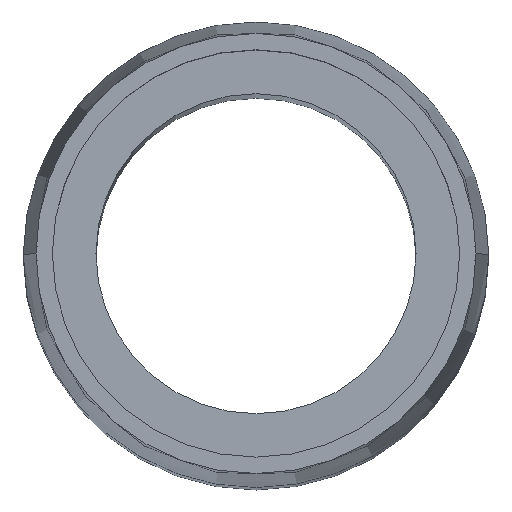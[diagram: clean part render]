
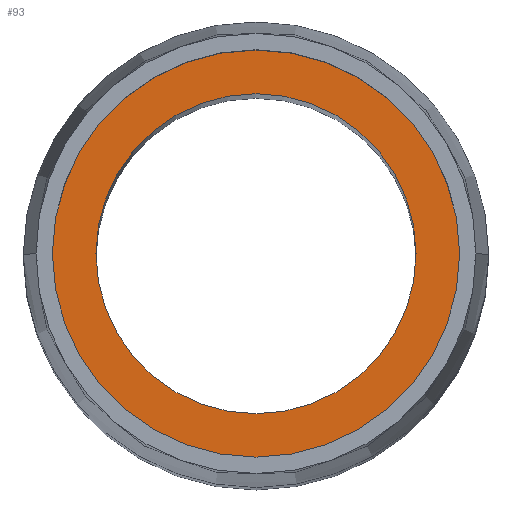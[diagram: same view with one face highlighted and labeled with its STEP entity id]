
A CAD part, top view. The second image highlights one B-rep face of the part: STEP entity #93.
In plain terms, the highlighted planar face has unit normal (0, 0, 1).
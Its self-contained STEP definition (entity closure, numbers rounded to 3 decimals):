
#67 = DIRECTION ( 'NONE',  ( 1., 0., 0. ) ) ;
#81 = ORIENTED_EDGE ( 'NONE', *, *, #465, .F. ) ;
#91 = ORIENTED_EDGE ( 'NONE', *, *, #505, .T. ) ;
#92 = EDGE_LOOP ( 'NONE', ( #81, #123 ) ) ;
#93 = ADVANCED_FACE ( 'NONE', ( #141, #190 ), #142, .T. ) ;
#117 = EDGE_CURVE ( 'NONE', #419, #469, #188, .T. ) ;
#123 = ORIENTED_EDGE ( 'NONE', *, *, #496, .F. ) ;
#124 = EDGE_LOOP ( 'NONE', ( #125, #91 ) ) ;
#125 = ORIENTED_EDGE ( 'NONE', *, *, #117, .T. ) ;
#126 = CARTESIAN_POINT ( 'NONE',  ( 14., 0., 140. ) ) ;
#131 = DIRECTION ( 'NONE',  ( 1., 0., 0. ) ) ;
#132 = DIRECTION ( 'NONE',  ( 0., 0., 1. ) ) ;
#134 = CARTESIAN_POINT ( 'NONE',  ( 0., 0., 140. ) ) ;
#135 = AXIS2_PLACEMENT_3D ( 'NONE', #134, #132, #131 ) ;
#141 = FACE_BOUND ( 'NONE', #92, .T. ) ;
#142 = PLANE ( 'NONE',  #166 ) ;
#160 = CARTESIAN_POINT ( 'NONE',  ( 11., 0., 140. ) ) ;
#166 = AXIS2_PLACEMENT_3D ( 'NONE', #180, #275, #250 ) ;
#180 = CARTESIAN_POINT ( 'NONE',  ( 0., 0., 140. ) ) ;
#188 = CIRCLE ( 'NONE', #135, 14. ) ;
#190 = FACE_OUTER_BOUND ( 'NONE', #124, .T. ) ;
#194 = CARTESIAN_POINT ( 'NONE',  ( -11., 0., 140. ) ) ;
#250 = DIRECTION ( 'NONE',  ( 1., 0., 0. ) ) ;
#252 = DIRECTION ( 'NONE',  ( 1., 0., 0. ) ) ;
#253 = DIRECTION ( 'NONE',  ( 0., 0., 1. ) ) ;
#254 = AXIS2_PLACEMENT_3D ( 'NONE', #270, #253, #252 ) ;
#257 = CARTESIAN_POINT ( 'NONE',  ( -14., 0., 140. ) ) ;
#269 = CIRCLE ( 'NONE', #254, 11. ) ;
#270 = CARTESIAN_POINT ( 'NONE',  ( 0., 0., 140. ) ) ;
#275 = DIRECTION ( 'NONE',  ( 0., 0., 1. ) ) ;
#283 = CARTESIAN_POINT ( 'NONE',  ( 0., 0., 140. ) ) ;
#291 = DIRECTION ( 'NONE',  ( 1., 0., 0. ) ) ;
#292 = DIRECTION ( 'NONE',  ( 0., 0., 1. ) ) ;
#303 = CIRCLE ( 'NONE', #314, 11. ) ;
#304 = CIRCLE ( 'NONE', #310, 14. ) ;
#308 = DIRECTION ( 'NONE',  ( 0., 0., 1. ) ) ;
#309 = CARTESIAN_POINT ( 'NONE',  ( 0., 0., 140. ) ) ;
#310 = AXIS2_PLACEMENT_3D ( 'NONE', #309, #308, #67 ) ;
#314 = AXIS2_PLACEMENT_3D ( 'NONE', #283, #292, #291 ) ;
#419 = VERTEX_POINT ( 'NONE', #126 ) ;
#454 = VERTEX_POINT ( 'NONE', #160 ) ;
#457 = VERTEX_POINT ( 'NONE', #194 ) ;
#465 = EDGE_CURVE ( 'NONE', #457, #454, #269, .T. ) ;
#469 = VERTEX_POINT ( 'NONE', #257 ) ;
#496 = EDGE_CURVE ( 'NONE', #454, #457, #303, .T. ) ;
#505 = EDGE_CURVE ( 'NONE', #469, #419, #304, .T. ) ;
